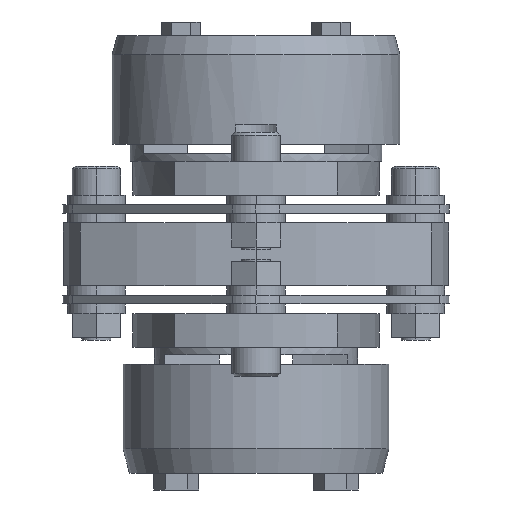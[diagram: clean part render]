
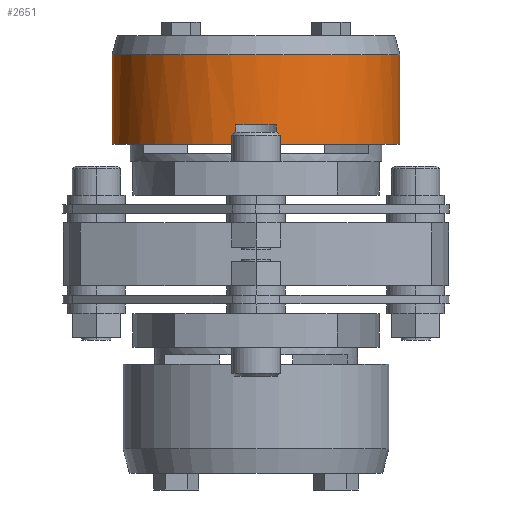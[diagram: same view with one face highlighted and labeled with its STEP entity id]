
A CAD part, left-side view. The second image highlights one B-rep face of the part: STEP entity #2651.
In plain terms, the highlighted cylindrical face has radius 29.75 mm (diameter 59.5 mm), a partial arc.
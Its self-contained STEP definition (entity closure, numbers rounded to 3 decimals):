
#2457=CARTESIAN_POINT('',(0.,-29.75,41.25));
#2458=VERTEX_POINT('',#2457);
#2474=CARTESIAN_POINT('',(0.,29.75,41.25));
#2475=VERTEX_POINT('',#2474);
#2482=CARTESIAN_POINT('',(0.,0.,41.25));
#2483=DIRECTION('',(0.0,0.0,1.0));
#2484=DIRECTION('',(0.,-1.0,0.0));
#2485=AXIS2_PLACEMENT_3D('',#2482,#2483,#2484);
#2486=CIRCLE('',#2485,29.75);
#2487=EDGE_CURVE('',#2475,#2458,#2486,.T.);
#2586=CARTESIAN_POINT('',(0.,0.,22.75));
#2587=DIRECTION('',(0.0,0.0,1.0));
#2588=DIRECTION('',(0.,1.0,0.0));
#2589=AXIS2_PLACEMENT_3D('',#2586,#2587,#2588);
#2590=CYLINDRICAL_SURFACE('',#2589,29.75);
#2591=CARTESIAN_POINT('',(0.,29.75,22.75));
#2592=VERTEX_POINT('',#2591);
#2593=CARTESIAN_POINT('',(0.,29.75,22.75));
#2594=DIRECTION('',(0.0,0.0,1.0));
#2595=VECTOR('',#2594,18.5);
#2596=LINE('',#2593,#2595);
#2597=EDGE_CURVE('',#2592,#2475,#2596,.T.);
#2598=ORIENTED_EDGE('',*,*,#2597,.F.);
#2599=CARTESIAN_POINT('',(-29.452,4.202,22.75));
#2600=VERTEX_POINT('',#2599);
#2601=CARTESIAN_POINT('',(0.,0.,22.75));
#2602=DIRECTION('',(0.0,0.0,1.0));
#2603=DIRECTION('',(0.,1.0,0.0));
#2604=AXIS2_PLACEMENT_3D('',#2601,#2602,#2603);
#2605=CIRCLE('',#2604,29.75);
#2606=EDGE_CURVE('',#2592,#2600,#2605,.T.);
#2607=ORIENTED_EDGE('',*,*,#2606,.T.);
#2608=CARTESIAN_POINT('',(-29.452,4.202,26.75));
#2609=VERTEX_POINT('',#2608);
#2610=CARTESIAN_POINT('',(-29.452,4.202,22.75));
#2611=DIRECTION('',(0.0,0.0,1.0));
#2612=VECTOR('',#2611,4.0);
#2613=LINE('',#2610,#2612);
#2614=EDGE_CURVE('',#2600,#2609,#2613,.T.);
#2615=ORIENTED_EDGE('',*,*,#2614,.T.);
#2616=CARTESIAN_POINT('',(-29.452,-4.202,26.75));
#2617=VERTEX_POINT('',#2616);
#2618=CARTESIAN_POINT('',(0.,0.,26.75));
#2619=DIRECTION('',(0.0,0.0,1.0));
#2620=DIRECTION('',(0.,1.0,0.0));
#2621=AXIS2_PLACEMENT_3D('',#2618,#2619,#2620);
#2622=CIRCLE('',#2621,29.75);
#2623=EDGE_CURVE('',#2609,#2617,#2622,.T.);
#2624=ORIENTED_EDGE('',*,*,#2623,.T.);
#2625=CARTESIAN_POINT('',(-29.452,-4.202,22.75));
#2626=VERTEX_POINT('',#2625);
#2627=CARTESIAN_POINT('',(-29.452,-4.202,26.75));
#2628=DIRECTION('',(0.0,0.0,-1.0));
#2629=VECTOR('',#2628,4.0);
#2630=LINE('',#2627,#2629);
#2631=EDGE_CURVE('',#2617,#2626,#2630,.T.);
#2632=ORIENTED_EDGE('',*,*,#2631,.T.);
#2633=CARTESIAN_POINT('',(0.,-29.75,22.75));
#2634=VERTEX_POINT('',#2633);
#2635=CARTESIAN_POINT('',(0.,0.,22.75));
#2636=DIRECTION('',(0.0,0.0,1.0));
#2637=DIRECTION('',(0.,1.0,0.0));
#2638=AXIS2_PLACEMENT_3D('',#2635,#2636,#2637);
#2639=CIRCLE('',#2638,29.75);
#2640=EDGE_CURVE('',#2626,#2634,#2639,.T.);
#2641=ORIENTED_EDGE('',*,*,#2640,.T.);
#2642=CARTESIAN_POINT('',(0.,-29.75,41.25));
#2643=DIRECTION('',(0.0,0.0,-1.0));
#2644=VECTOR('',#2643,18.5);
#2645=LINE('',#2642,#2644);
#2646=EDGE_CURVE('',#2458,#2634,#2645,.T.);
#2647=ORIENTED_EDGE('',*,*,#2646,.F.);
#2648=ORIENTED_EDGE('',*,*,#2487,.F.);
#2649=EDGE_LOOP('',(#2598,#2607,#2615,#2624,#2632,#2641,#2647,#2648));
#2650=FACE_OUTER_BOUND('',#2649,.T.);
#2651=ADVANCED_FACE('',(#2650),#2590,.T.);
